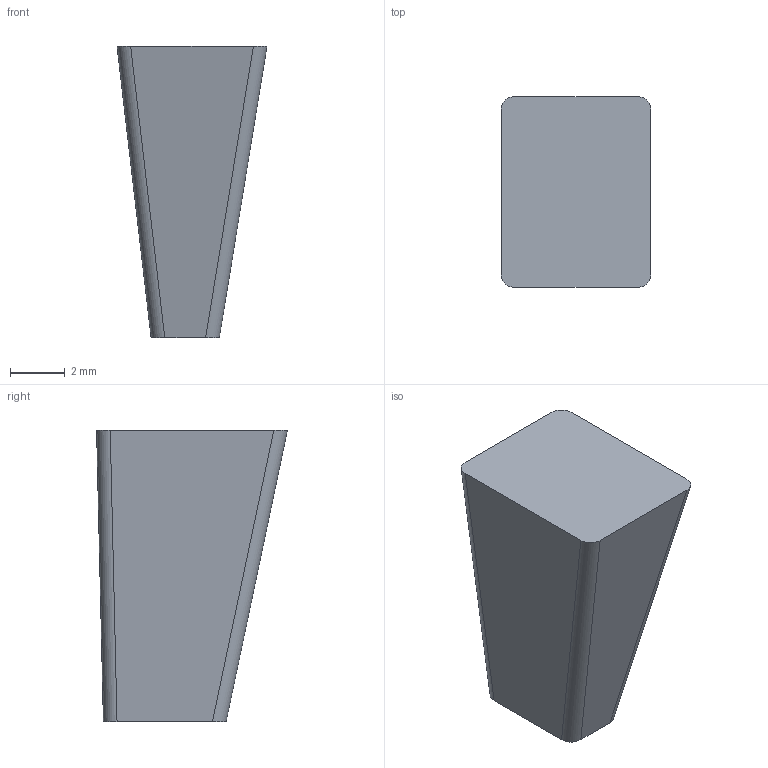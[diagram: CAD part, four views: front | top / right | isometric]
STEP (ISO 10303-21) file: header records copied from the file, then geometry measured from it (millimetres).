
FILE_DESCRIPTION(('Open CASCADE Model'),'2;1');
FILE_NAME('Open CASCADE Shape Model','2026-09-15T13:40:31',('Author'),( 'Open CASCADE'),'Open CASCADE STEP processor 7.7','Open CASCADE 7.7' ,'Unknown');
FILE_SCHEMA(('AUTOMOTIVE_DESIGN { 1 0 10303 214 1 1 1 1 }'));
Length unit declared in the file: millimetre
Products named in the file (1): COMPOUND
Bounding box: 5.5 x 7 x 10.71 mm (x, y, z)
Volume: 250.7 mm3; surface area: 251.2 mm2
Topology: 1 solids, 1 shells, 10 faces, 24 edges, 16 vertices
Faces by surface type: bspline 8, plane 2
Entity records: 654 total; most frequent: CARTESIAN_POINT 183, DIRECTION 74, ORIENTED_EDGE 48, PCURVE 48, DEFINITIONAL_REPRESENTATION 48, LINE 44, VECTOR 44, EDGE_CURVE 24
